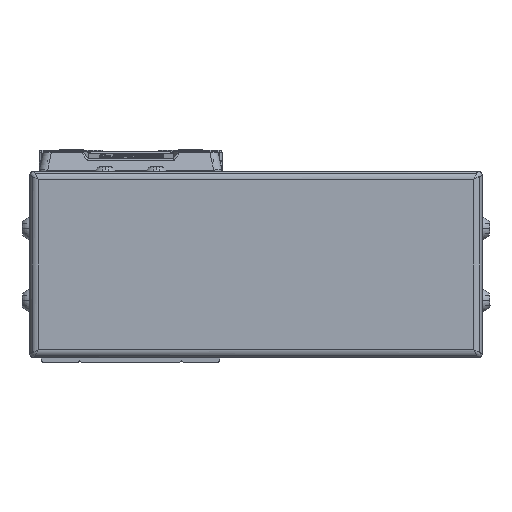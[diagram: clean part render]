
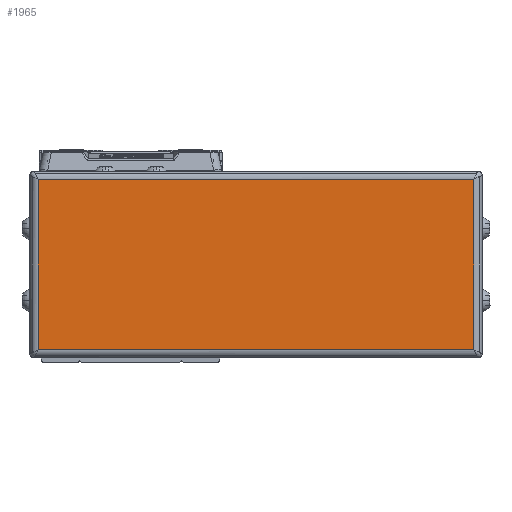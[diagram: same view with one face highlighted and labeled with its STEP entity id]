
A CAD part, left-side view. The second image highlights one B-rep face of the part: STEP entity #1965.
In plain terms, the highlighted planar face has unit normal (-1, 0, 0).
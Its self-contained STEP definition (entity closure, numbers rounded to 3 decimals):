
#1965=ADVANCED_FACE('',(#5483),#5484,.T.);
#5483=FACE_OUTER_BOUND('',#10951,.T.);
#5484=PLANE('',#10952);
#10951=EDGE_LOOP('',(#19318,#19319,#19320,#19321));
#10952=AXIS2_PLACEMENT_3D('',#19322,#19323,#19324);
#19318=ORIENTED_EDGE('',*,*,#34699,.F.);
#19319=ORIENTED_EDGE('',*,*,#34700,.F.);
#19320=ORIENTED_EDGE('',*,*,#34701,.F.);
#19321=ORIENTED_EDGE('',*,*,#34702,.F.);
#19322=CARTESIAN_POINT('',(-48.,-29.5,-4.));
#19323=DIRECTION('',(-1.0,0.,0.));
#19324=DIRECTION('',(0.,0.,1.0));
#34699=EDGE_CURVE('',#40780,#40781,#40782,.T.);
#34700=EDGE_CURVE('',#40783,#40780,#40784,.T.);
#34701=EDGE_CURVE('',#40785,#40783,#40786,.T.);
#34702=EDGE_CURVE('',#40781,#40785,#40787,.T.);
#40780=VERTEX_POINT('',#49689);
#40781=VERTEX_POINT('',#49690);
#40782=LINE('',#49691,#49692);
#40783=VERTEX_POINT('',#49693);
#40784=LINE('',#49694,#49695);
#40785=VERTEX_POINT('',#49696);
#40786=LINE('',#49697,#49698);
#40787=LINE('',#49699,#49700);
#49689=CARTESIAN_POINT('',(-48.,21.7,16.));
#49690=CARTESIAN_POINT('',(-48.,-80.7,16.));
#49691=CARTESIAN_POINT('',(-48.,-29.5,16.));
#49692=VECTOR('',#62683,10.0);
#49693=CARTESIAN_POINT('',(-48.,21.7,-24.));
#49694=CARTESIAN_POINT('',(-48.,21.7,-4.));
#49695=VECTOR('',#62684,10.0);
#49696=CARTESIAN_POINT('',(-48.,-80.7,-24.));
#49697=CARTESIAN_POINT('',(-48.,-29.5,-24.));
#49698=VECTOR('',#62685,10.0);
#49699=CARTESIAN_POINT('',(-48.,-80.7,-4.));
#49700=VECTOR('',#62686,10.0);
#62683=DIRECTION('',(0.,-1.0,0.));
#62684=DIRECTION('',(0.,0.,1.0));
#62685=DIRECTION('',(0.,1.0,0.));
#62686=DIRECTION('',(0.,0.,-1.0));
